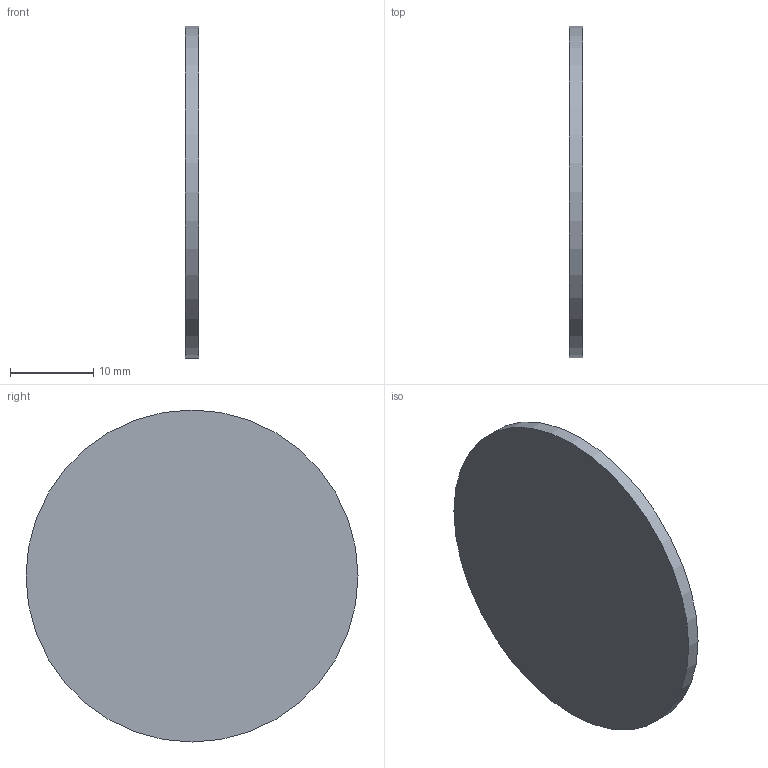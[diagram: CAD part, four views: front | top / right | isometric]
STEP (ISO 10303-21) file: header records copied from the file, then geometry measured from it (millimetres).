
FILE_DESCRIPTION(('Open CASCADE Model'),'2;1');
FILE_NAME('Open CASCADE Shape Model','2026-10-24T14:13:33',('Author'),( 'Open CASCADE'),'Open CASCADE STEP processor 7.9','Open CASCADE 7.9' ,'Unknown');
FILE_SCHEMA(('AUTOMOTIVE_DESIGN { 1 0 10303 214 1 1 1 1 }'));
Length unit declared in the file: millimetre
Products named in the file (1): Open CASCADE STEP translator 7.9 5
Bounding box: 1.6 x 40 x 40 mm (x, y, z)
Volume: 2010.6 mm3; surface area: 2714.3 mm2
Topology: 1 solids, 1 shells, 3 faces, 3 edges, 2 vertices
Faces by surface type: plane 2, cylinder 1
Full cylindrical faces by diameter (mm): 40 x1
Entity records: 108 total; most frequent: DIRECTION 19, CARTESIAN_POINT 15, AXIS2_PLACEMENT_3D 6, ORIENTED_EDGE 6, PCURVE 6, DEFINITIONAL_REPRESENTATION 6, LINE 5, VECTOR 5
